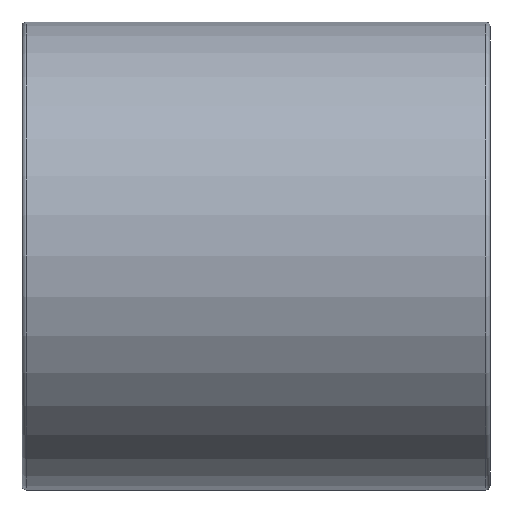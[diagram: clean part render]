
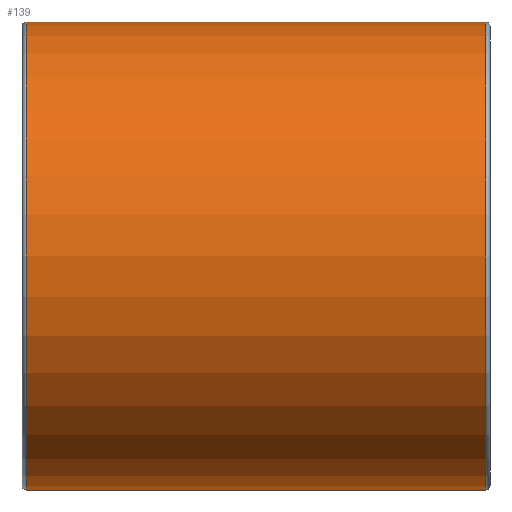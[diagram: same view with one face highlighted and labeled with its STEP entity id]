
A CAD part, front view. The second image highlights one B-rep face of the part: STEP entity #139.
In plain terms, the highlighted cylindrical face has radius 90.5 mm (diameter 181 mm), a full revolution.
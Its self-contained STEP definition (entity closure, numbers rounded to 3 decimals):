
#16=CYLINDRICAL_SURFACE('',#158,90.5);
#27=FACE_BOUND('',#56,.T.);
#39=FACE_OUTER_BOUND('',#55,.T.);
#55=EDGE_LOOP('',(#115));
#56=EDGE_LOOP('',(#116));
#75=CIRCLE('',#157,90.5);
#76=CIRCLE('',#159,90.5);
#87=VERTEX_POINT('',#236);
#88=VERTEX_POINT('',#239);
#99=EDGE_CURVE('',#87,#87,#75,.T.);
#100=EDGE_CURVE('',#88,#88,#76,.T.);
#115=ORIENTED_EDGE('',*,*,#100,.F.);
#116=ORIENTED_EDGE('',*,*,#99,.F.);
#139=ADVANCED_FACE('',(#39,#27),#16,.T.);
#157=AXIS2_PLACEMENT_3D('',#237,#191,#192);
#158=AXIS2_PLACEMENT_3D('',#238,#193,#194);
#159=AXIS2_PLACEMENT_3D('',#240,#195,#196);
#191=DIRECTION('center_axis',(-1.,0.,0.));
#192=DIRECTION('ref_axis',(0.,-1.,0.));
#193=DIRECTION('center_axis',(1.,0.,0.));
#194=DIRECTION('ref_axis',(0.,1.,0.));
#195=DIRECTION('center_axis',(1.,0.,0.));
#196=DIRECTION('ref_axis',(0.,-1.,0.));
#236=CARTESIAN_POINT('',(-88.9,90.5,0.));
#237=CARTESIAN_POINT('Origin',(-88.9,0.,0.));
#238=CARTESIAN_POINT('Origin',(0.,0.,
0.));
#239=CARTESIAN_POINT('',(88.9,90.5,0.));
#240=CARTESIAN_POINT('Origin',(88.9,0.,0.));
